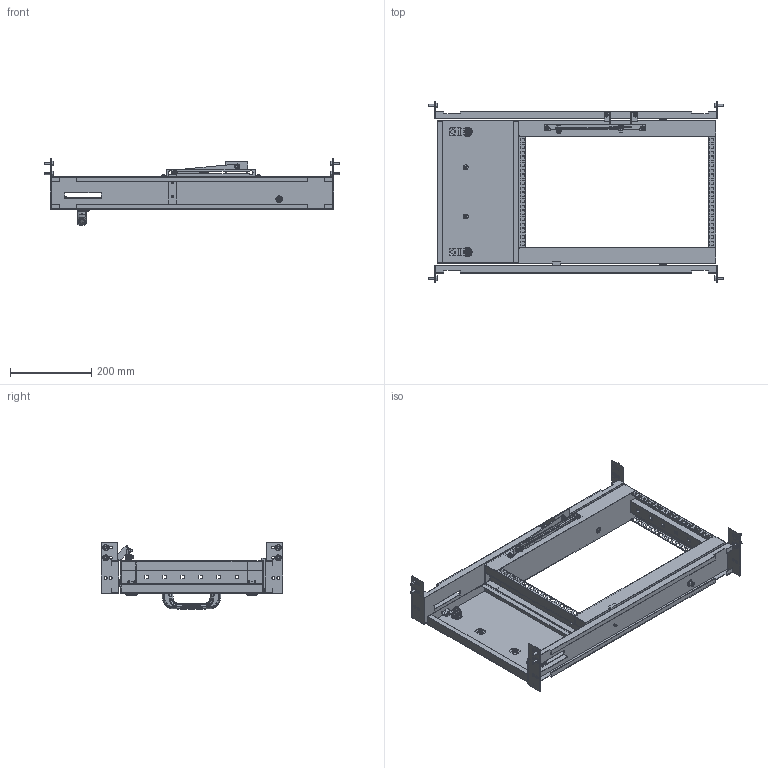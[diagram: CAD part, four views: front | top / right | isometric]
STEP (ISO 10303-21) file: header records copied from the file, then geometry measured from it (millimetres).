
FILE_DESCRIPTION(('Open CASCADE Model'),'2;1');
FILE_NAME('Open CASCADE Shape Model','2025-03-24T10:14:41',('Author'),( 'Open CASCADE'),'Open CASCADE STEP processor 7.8','Open CASCADE 7.8' ,'Unknown');
FILE_SCHEMA(('AUTOMOTIVE_DESIGN { 1 0 10303 214 1 1 1 1 }'));
Length unit declared in the file: millimetre
Products named in the file (32): Compound1; Compound2; Solid1; Solid2; Compound3; Solid3; Solid4; Solid5; Solid6; Solid7; Solid8; Solid9; Solid10; Solid11; Solid12; Solid13; Solid14; Solid15; Solid16; Solid17; Compound4; Solid18; Solid19; Solid20; Solid21; Compound5; Solid22; Solid23; Solid24; Solid25; Solid26; Solid27
Assembly tree (50 placements, depth 3):
  Compound1
    Compound2
      Solid1
      Solid2
    Compound3
      Solid3
      Solid2
    Solid4  x2
    Solid5  x2
    Solid6
    Solid7
    Solid8
    Solid9
    Solid10
    Solid11  x2
    Solid12  x4
    Solid13  x8
    Solid14
    Solid15
    Solid16  x2
    Solid17  x2
    Compound4
      Solid18
      Solid19
    Solid20
    Solid21
    Compound5
      Solid22  x2
      Solid23
      Solid24  x2
      Solid25
      Solid26  x2
      Solid27
Bounding box: 726 x 445.5 x 165 mm (x, y, z)
Volume: 1132055 mm3; surface area: 1349961.7 mm2
Topology: 48 solids, 66 shells, 3903 faces, 10494 edges, 6681 vertices
Faces by surface type: plane 1816, cylinder 724, bspline 670, cone 439, torus 176, sphere 78
Entity records: 109224 total; most frequent: CARTESIAN_POINT 45618, ORIENTED_EDGE 14136, DIRECTION 11416, EDGE_CURVE 7238, VERTEX_POINT 4615, AXIS2_PLACEMENT_3D 3846, LINE 3724, VECTOR 3724
